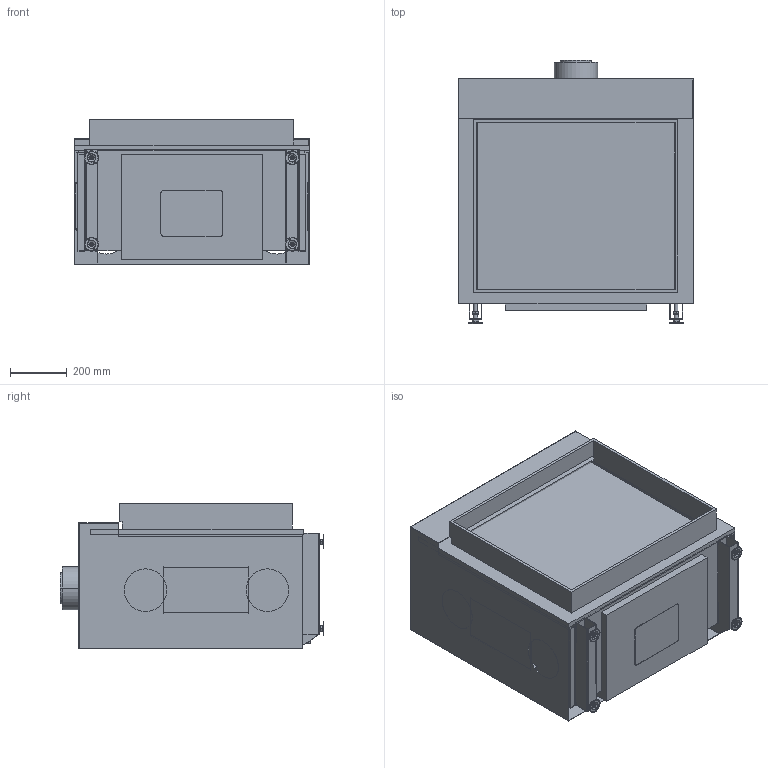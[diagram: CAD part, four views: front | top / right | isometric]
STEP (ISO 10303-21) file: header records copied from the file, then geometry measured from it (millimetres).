
FILE_DESCRIPTION(('Creo Elements/Direct Modeling STEP Export'),'2;1');
FILE_NAME('AVENUE MF 700-60 GHE 1S.stp','2019-05-13T10:22:51',(''),(''),'PTC Creo Elements/Direct Modeling STEP processor for AP214 (Solid Model)','PTC Creo Elements/Direct Modeling 19.0B 21-Mar-2015 (C) Parametric Technology GmbH','');
FILE_SCHEMA(('AUTOMOTIVE_DESIGN { 1 0 10303 214 1 1 1 1 }'));
Length unit declared in the file: millimetre
Products named in the file (8): FinishingFrame; Options; Frame; Glass_front; Adjustable_floorsupport_M12.1.2; AVN_700-60_1S_FrontPanel; AVN_700-60_1S_Base; AVENUE_MF_700-60_GHE_1S
Assembly tree (10 placements, depth 3):
  AVENUE_MF_700-60_GHE_1S
    AVN_700-60_1S_Base
    AVN_700-60_1S_FrontPanel
      Adjustable_floorsupport_M12.1.2  x4
      Glass_front
      Frame
    Options
      FinishingFrame
Bounding box: 828.25 x 930 x 511 mm (x, y, z)
Volume: 63643162.9 mm3; surface area: 9384916.5 mm2
Topology: 8 solids, 12 shells, 665 faces, 1615 edges, 1025 vertices
Faces by surface type: plane 425, cylinder 136, cone 88, sphere 8, torus 8
Entity records: 11726 total; most frequent: CARTESIAN_POINT 3273, ORIENTED_EDGE 1760, DIRECTION 1542, EDGE_CURVE 880, VECTOR 626, LINE 626, VERTEX_POINT 569, AXIS2_PLACEMENT_3D 458
